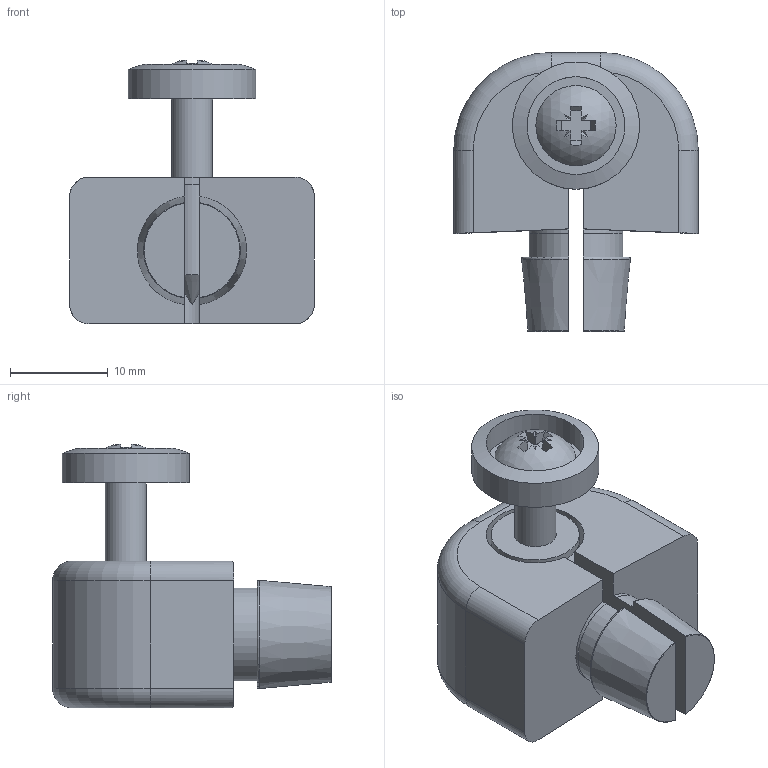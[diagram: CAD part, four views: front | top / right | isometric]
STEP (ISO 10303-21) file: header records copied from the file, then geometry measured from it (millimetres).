
FILE_DESCRIPTION (( 'STEP AP214' ), '1' );
FILE_NAME ('L15137 avec accessoires.step', '2024-12-03T16:21:37', ( '' ), ( '' ), 'SwSTEP 2.0', 'SolidWorks 2023', '' );
FILE_SCHEMA (( 'AUTOMOTIVE_DESIGN' ));
Length unit declared in the file: millimetre
Products named in the file (5): L15137; F10386; L15137 avec accessoires; F12749; F12753
Assembly tree (4 placements, depth 2):
  L15137 avec accessoires
    L15137
    F12753
    F12749
    F10386
Bounding box: 25 x 28.5 x 26.94 mm (x, y, z)
Volume: 6902.6 mm3; surface area: 3834.8 mm2
Topology: 4 solids, 4 shells, 86 faces, 220 edges, 143 vertices
Faces by surface type: plane 49, cylinder 24, torus 8, cone 4, sphere 1
Full cylindrical faces by diameter (mm): 4.2 x1, 4.3 x1, 5.5 x1, 8.2 x1, 9 x1, 10 x1, 13 x1
Entity records: 2806 total; most frequent: CARTESIAN_POINT 577, DIRECTION 456, ORIENTED_EDGE 418, EDGE_CURVE 209, AXIS2_PLACEMENT_3D 172, VERTEX_POINT 141, VECTOR 112, LINE 112
